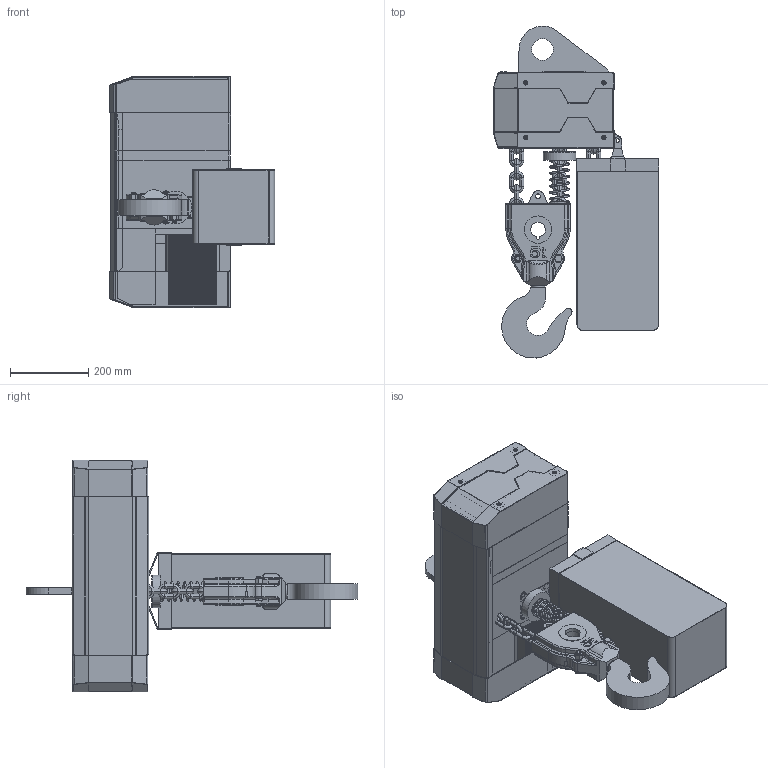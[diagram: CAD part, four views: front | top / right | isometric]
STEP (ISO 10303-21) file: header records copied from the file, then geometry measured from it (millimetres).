
FILE_DESCRIPTION(/* description */ (''),/* implementation_level */ '2;1');
FILE_NAME(/* name */ 'YJ 05-02 固定式.stp',/* time_stamp */ '2026-06-09T11:22:14+08:00',/* author */ (''),/* organization */ (''),/* preprocessor_version */ 'ST-DEVELOPER v16.7',/* originating_system */ 'SIEMENS PLM Software NX 12.0',/* authorisation */ '');
FILE_SCHEMA (('AP203_CONFIGURATION_CONTROLLED_3D_DESIGN_OF_MECHANICAL_PARTS_AND_ASSEMBLIES_MIM_LF { 1 0 10303 403 2 1 2}'));
Products named in the file (1): A099878D529yl
Bounding box: 424.21 x 849.69 x 593 mm (x, y, z)
Volume: 2985336.2 mm3; surface area: 3040840.6 mm2
Topology: 36 solids, 180 shells, 3559 faces, 9406 edges, 5838 vertices
Faces by surface type: cylinder 1357, plane 1228, torus 572, bspline 190, cone 112, sphere 67, extrusion 33
Full cylindrical faces by diameter (mm): 2 x4, 2.4 x8, 3.5 x4, 4.2 x1, 5.795 x8, 6 x3, 6.3 x4, 6.4 x2, 6.6 x8, 6.791 x1, 7.46 x1, 9 x2, 10 x8, 10.3 x13, 10.579 x2, 11.2 x12, 11.701 x2, 12.5 x1, 13 x2, 16.63 x2, 34.7 x1, 47 x1, 54.9 x1, 55 x1, 70 x4, 80 x2, 83 x1, 120 x2, 129 x1
Entity records: 127229 total; most frequent: CARTESIAN_POINT 40950, ORIENTED_EDGE 17554, DIRECTION 16989, EDGE_CURVE 9078, AXIS2_PLACEMENT_3D 6188, VERTEX_POINT 5752, VECTOR 4613, LINE 4580
